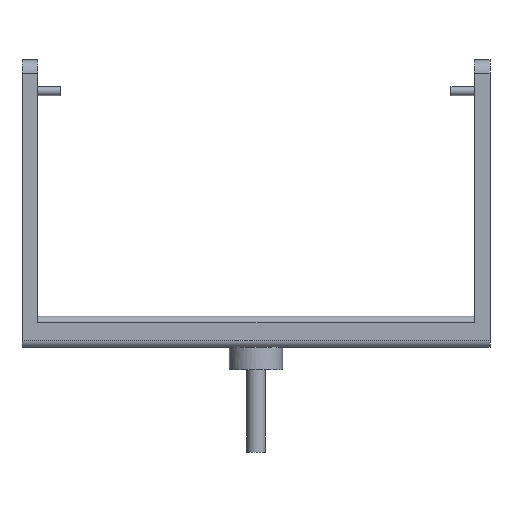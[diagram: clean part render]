
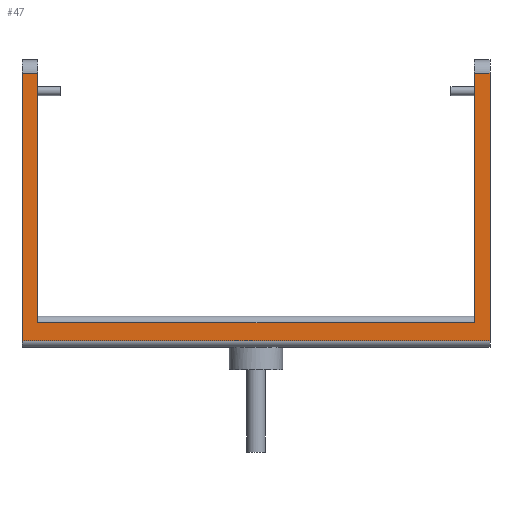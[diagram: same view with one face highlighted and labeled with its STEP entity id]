
A CAD part, left-side view. The second image highlights one B-rep face of the part: STEP entity #47.
In plain terms, the highlighted planar face has unit normal (-1, 0, 0).
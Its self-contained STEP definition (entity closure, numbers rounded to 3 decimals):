
#47 = ADVANCED_FACE('',(#48),#62,.F.);
#48 = FACE_BOUND('',#49,.F.);
#49 = EDGE_LOOP('',(#50,#85,#113,#141,#169,#197,#225,#253));
#50 = ORIENTED_EDGE('',*,*,#51,.F.);
#51 = EDGE_CURVE('',#52,#54,#56,.T.);
#52 = VERTEX_POINT('',#53);
#53 = CARTESIAN_POINT('',(924.,-210.,326.));
#54 = VERTEX_POINT('',#55);
#55 = CARTESIAN_POINT('',(924.,-210.,566.));
#56 = SURFACE_CURVE('',#57,(#61,#73),.PCURVE_S1.);
#57 = LINE('',#58,#59);
#58 = CARTESIAN_POINT('',(924.,-210.,326.));
#59 = VECTOR('',#60,1.);
#60 = DIRECTION('',(0.,0.,1.));
#61 = PCURVE('',#62,#67);
#62 = PLANE('',#63);
#63 = AXIS2_PLACEMENT_3D('',#64,#65,#66);
#64 = CARTESIAN_POINT('',(924.,-210.,320.));
#65 = DIRECTION('',(1.,0.,0.));
#66 = DIRECTION('',(0.,0.,1.));
#67 = DEFINITIONAL_REPRESENTATION('',(#68),#72);
#68 = LINE('',#69,#70);
#69 = CARTESIAN_POINT('',(6.,0.));
#70 = VECTOR('',#71,1.);
#71 = DIRECTION('',(1.,0.));
#72 = ( GEOMETRIC_REPRESENTATION_CONTEXT(2) 
PARAMETRIC_REPRESENTATION_CONTEXT() REPRESENTATION_CONTEXT('2D SPACE',''
  ) );
#73 = PCURVE('',#74,#79);
#74 = PLANE('',#75);
#75 = AXIS2_PLACEMENT_3D('',#76,#77,#78);
#76 = CARTESIAN_POINT('',(924.,-210.,320.));
#77 = DIRECTION('',(0.,1.,0.));
#78 = DIRECTION('',(0.,0.,1.));
#79 = DEFINITIONAL_REPRESENTATION('',(#80),#84);
#80 = LINE('',#81,#82);
#81 = CARTESIAN_POINT('',(6.,0.));
#82 = VECTOR('',#83,1.);
#83 = DIRECTION('',(1.,0.));
#84 = ( GEOMETRIC_REPRESENTATION_CONTEXT(2) 
PARAMETRIC_REPRESENTATION_CONTEXT() REPRESENTATION_CONTEXT('2D SPACE',''
  ) );
#85 = ORIENTED_EDGE('',*,*,#86,.T.);
#86 = EDGE_CURVE('',#52,#87,#89,.T.);
#87 = VERTEX_POINT('',#88);
#88 = CARTESIAN_POINT('',(924.,210.,326.));
#89 = SURFACE_CURVE('',#90,(#94,#101),.PCURVE_S1.);
#90 = LINE('',#91,#92);
#91 = CARTESIAN_POINT('',(924.,-210.,326.));
#92 = VECTOR('',#93,1.);
#93 = DIRECTION('',(0.,1.,0.));
#94 = PCURVE('',#62,#95);
#95 = DEFINITIONAL_REPRESENTATION('',(#96),#100);
#96 = LINE('',#97,#98);
#97 = CARTESIAN_POINT('',(6.,0.));
#98 = VECTOR('',#99,1.);
#99 = DIRECTION('',(0.,-1.));
#100 = ( GEOMETRIC_REPRESENTATION_CONTEXT(2) 
PARAMETRIC_REPRESENTATION_CONTEXT() REPRESENTATION_CONTEXT('2D SPACE',''
  ) );
#101 = PCURVE('',#102,#107);
#102 = CYLINDRICAL_SURFACE('',#103,6.);
#103 = AXIS2_PLACEMENT_3D('',#104,#105,#106);
#104 = CARTESIAN_POINT('',(930.,-210.,326.));
#105 = DIRECTION('',(0.,1.,0.));
#106 = DIRECTION('',(-1.,0.,0.));
#107 = DEFINITIONAL_REPRESENTATION('',(#108),#112);
#108 = LINE('',#109,#110);
#109 = CARTESIAN_POINT('',(-0.,0.));
#110 = VECTOR('',#111,1.);
#111 = DIRECTION('',(-0.,1.));
#112 = ( GEOMETRIC_REPRESENTATION_CONTEXT(2) 
PARAMETRIC_REPRESENTATION_CONTEXT() REPRESENTATION_CONTEXT('2D SPACE',''
  ) );
#113 = ORIENTED_EDGE('',*,*,#114,.F.);
#114 = EDGE_CURVE('',#115,#87,#117,.T.);
#115 = VERTEX_POINT('',#116);
#116 = CARTESIAN_POINT('',(924.,210.,566.));
#117 = SURFACE_CURVE('',#118,(#122,#129),.PCURVE_S1.);
#118 = LINE('',#119,#120);
#119 = CARTESIAN_POINT('',(924.,210.,566.));
#120 = VECTOR('',#121,1.);
#121 = DIRECTION('',(0.,0.,-1.));
#122 = PCURVE('',#62,#123);
#123 = DEFINITIONAL_REPRESENTATION('',(#124),#128);
#124 = LINE('',#125,#126);
#125 = CARTESIAN_POINT('',(246.,-420.));
#126 = VECTOR('',#127,1.);
#127 = DIRECTION('',(-1.,0.));
#128 = ( GEOMETRIC_REPRESENTATION_CONTEXT(2) 
PARAMETRIC_REPRESENTATION_CONTEXT() REPRESENTATION_CONTEXT('2D SPACE',''
  ) );
#129 = PCURVE('',#130,#135);
#130 = PLANE('',#131);
#131 = AXIS2_PLACEMENT_3D('',#132,#133,#134);
#132 = CARTESIAN_POINT('',(924.,210.,320.));
#133 = DIRECTION('',(0.,1.,0.));
#134 = DIRECTION('',(0.,0.,1.));
#135 = DEFINITIONAL_REPRESENTATION('',(#136),#140);
#136 = LINE('',#137,#138);
#137 = CARTESIAN_POINT('',(246.,0.));
#138 = VECTOR('',#139,1.);
#139 = DIRECTION('',(-1.,0.));
#140 = ( GEOMETRIC_REPRESENTATION_CONTEXT(2) 
PARAMETRIC_REPRESENTATION_CONTEXT() REPRESENTATION_CONTEXT('2D SPACE',''
  ) );
#141 = ORIENTED_EDGE('',*,*,#142,.F.);
#142 = EDGE_CURVE('',#143,#115,#145,.T.);
#143 = VERTEX_POINT('',#144);
#144 = CARTESIAN_POINT('',(924.,196.,566.));
#145 = SURFACE_CURVE('',#146,(#150,#157),.PCURVE_S1.);
#146 = LINE('',#147,#148);
#147 = CARTESIAN_POINT('',(924.,196.,566.));
#148 = VECTOR('',#149,1.);
#149 = DIRECTION('',(0.,1.,0.));
#150 = PCURVE('',#62,#151);
#151 = DEFINITIONAL_REPRESENTATION('',(#152),#156);
#152 = LINE('',#153,#154);
#153 = CARTESIAN_POINT('',(246.,-406.));
#154 = VECTOR('',#155,1.);
#155 = DIRECTION('',(0.,-1.));
#156 = ( GEOMETRIC_REPRESENTATION_CONTEXT(2) 
PARAMETRIC_REPRESENTATION_CONTEXT() REPRESENTATION_CONTEXT('2D SPACE',''
  ) );
#157 = PCURVE('',#158,#163);
#158 = CYLINDRICAL_SURFACE('',#159,12.);
#159 = AXIS2_PLACEMENT_3D('',#160,#161,#162);
#160 = CARTESIAN_POINT('',(936.,196.,566.));
#161 = DIRECTION('',(0.,1.,0.));
#162 = DIRECTION('',(-1.,0.,0.));
#163 = DEFINITIONAL_REPRESENTATION('',(#164),#168);
#164 = LINE('',#165,#166);
#165 = CARTESIAN_POINT('',(0.,0.));
#166 = VECTOR('',#167,1.);
#167 = DIRECTION('',(0.,1.));
#168 = ( GEOMETRIC_REPRESENTATION_CONTEXT(2) 
PARAMETRIC_REPRESENTATION_CONTEXT() REPRESENTATION_CONTEXT('2D SPACE',''
  ) );
#169 = ORIENTED_EDGE('',*,*,#170,.F.);
#170 = EDGE_CURVE('',#171,#143,#173,.T.);
#171 = VERTEX_POINT('',#172);
#172 = CARTESIAN_POINT('',(924.,196.,342.));
#173 = SURFACE_CURVE('',#174,(#178,#185),.PCURVE_S1.);
#174 = LINE('',#175,#176);
#175 = CARTESIAN_POINT('',(924.,196.,320.));
#176 = VECTOR('',#177,1.);
#177 = DIRECTION('',(0.,0.,1.));
#178 = PCURVE('',#62,#179);
#179 = DEFINITIONAL_REPRESENTATION('',(#180),#184);
#180 = LINE('',#181,#182);
#181 = CARTESIAN_POINT('',(0.,-406.));
#182 = VECTOR('',#183,1.);
#183 = DIRECTION('',(1.,0.));
#184 = ( GEOMETRIC_REPRESENTATION_CONTEXT(2) 
PARAMETRIC_REPRESENTATION_CONTEXT() REPRESENTATION_CONTEXT('2D SPACE',''
  ) );
#185 = PCURVE('',#186,#191);
#186 = PLANE('',#187);
#187 = AXIS2_PLACEMENT_3D('',#188,#189,#190);
#188 = CARTESIAN_POINT('',(924.,196.,320.));
#189 = DIRECTION('',(0.,1.,0.));
#190 = DIRECTION('',(0.,0.,1.));
#191 = DEFINITIONAL_REPRESENTATION('',(#192),#196);
#192 = LINE('',#193,#194);
#193 = CARTESIAN_POINT('',(0.,0.));
#194 = VECTOR('',#195,1.);
#195 = DIRECTION('',(1.,0.));
#196 = ( GEOMETRIC_REPRESENTATION_CONTEXT(2) 
PARAMETRIC_REPRESENTATION_CONTEXT() REPRESENTATION_CONTEXT('2D SPACE',''
  ) );
#197 = ORIENTED_EDGE('',*,*,#198,.F.);
#198 = EDGE_CURVE('',#199,#171,#201,.T.);
#199 = VERTEX_POINT('',#200);
#200 = CARTESIAN_POINT('',(924.,-196.,342.));
#201 = SURFACE_CURVE('',#202,(#206,#213),.PCURVE_S1.);
#202 = LINE('',#203,#204);
#203 = CARTESIAN_POINT('',(924.,-210.,342.));
#204 = VECTOR('',#205,1.);
#205 = DIRECTION('',(0.,1.,0.));
#206 = PCURVE('',#62,#207);
#207 = DEFINITIONAL_REPRESENTATION('',(#208),#212);
#208 = LINE('',#209,#210);
#209 = CARTESIAN_POINT('',(22.,0.));
#210 = VECTOR('',#211,1.);
#211 = DIRECTION('',(0.,-1.));
#212 = ( GEOMETRIC_REPRESENTATION_CONTEXT(2) 
PARAMETRIC_REPRESENTATION_CONTEXT() REPRESENTATION_CONTEXT('2D SPACE',''
  ) );
#213 = PCURVE('',#214,#219);
#214 = CYLINDRICAL_SURFACE('',#215,6.);
#215 = AXIS2_PLACEMENT_3D('',#216,#217,#218);
#216 = CARTESIAN_POINT('',(930.,-210.,342.));
#217 = DIRECTION('',(0.,1.,0.));
#218 = DIRECTION('',(-1.,0.,0.));
#219 = DEFINITIONAL_REPRESENTATION('',(#220),#224);
#220 = LINE('',#221,#222);
#221 = CARTESIAN_POINT('',(0.,0.));
#222 = VECTOR('',#223,1.);
#223 = DIRECTION('',(0.,1.));
#224 = ( GEOMETRIC_REPRESENTATION_CONTEXT(2) 
PARAMETRIC_REPRESENTATION_CONTEXT() REPRESENTATION_CONTEXT('2D SPACE',''
  ) );
#225 = ORIENTED_EDGE('',*,*,#226,.T.);
#226 = EDGE_CURVE('',#199,#227,#229,.T.);
#227 = VERTEX_POINT('',#228);
#228 = CARTESIAN_POINT('',(924.,-196.,566.));
#229 = SURFACE_CURVE('',#230,(#234,#241),.PCURVE_S1.);
#230 = LINE('',#231,#232);
#231 = CARTESIAN_POINT('',(924.,-196.,320.));
#232 = VECTOR('',#233,1.);
#233 = DIRECTION('',(0.,0.,1.));
#234 = PCURVE('',#62,#235);
#235 = DEFINITIONAL_REPRESENTATION('',(#236),#240);
#236 = LINE('',#237,#238);
#237 = CARTESIAN_POINT('',(0.,-14.));
#238 = VECTOR('',#239,1.);
#239 = DIRECTION('',(1.,0.));
#240 = ( GEOMETRIC_REPRESENTATION_CONTEXT(2) 
PARAMETRIC_REPRESENTATION_CONTEXT() REPRESENTATION_CONTEXT('2D SPACE',''
  ) );
#241 = PCURVE('',#242,#247);
#242 = PLANE('',#243);
#243 = AXIS2_PLACEMENT_3D('',#244,#245,#246);
#244 = CARTESIAN_POINT('',(924.,-196.,320.));
#245 = DIRECTION('',(0.,1.,0.));
#246 = DIRECTION('',(0.,0.,1.));
#247 = DEFINITIONAL_REPRESENTATION('',(#248),#252);
#248 = LINE('',#249,#250);
#249 = CARTESIAN_POINT('',(0.,0.));
#250 = VECTOR('',#251,1.);
#251 = DIRECTION('',(1.,0.));
#252 = ( GEOMETRIC_REPRESENTATION_CONTEXT(2) 
PARAMETRIC_REPRESENTATION_CONTEXT() REPRESENTATION_CONTEXT('2D SPACE',''
  ) );
#253 = ORIENTED_EDGE('',*,*,#254,.F.);
#254 = EDGE_CURVE('',#54,#227,#255,.T.);
#255 = SURFACE_CURVE('',#256,(#260,#267),.PCURVE_S1.);
#256 = LINE('',#257,#258);
#257 = CARTESIAN_POINT('',(924.,-210.,566.));
#258 = VECTOR('',#259,1.);
#259 = DIRECTION('',(0.,1.,0.));
#260 = PCURVE('',#62,#261);
#261 = DEFINITIONAL_REPRESENTATION('',(#262),#266);
#262 = LINE('',#263,#264);
#263 = CARTESIAN_POINT('',(246.,0.));
#264 = VECTOR('',#265,1.);
#265 = DIRECTION('',(0.,-1.));
#266 = ( GEOMETRIC_REPRESENTATION_CONTEXT(2) 
PARAMETRIC_REPRESENTATION_CONTEXT() REPRESENTATION_CONTEXT('2D SPACE',''
  ) );
#267 = PCURVE('',#268,#273);
#268 = CYLINDRICAL_SURFACE('',#269,12.);
#269 = AXIS2_PLACEMENT_3D('',#270,#271,#272);
#270 = CARTESIAN_POINT('',(936.,-210.,566.));
#271 = DIRECTION('',(0.,1.,0.));
#272 = DIRECTION('',(-1.,0.,0.));
#273 = DEFINITIONAL_REPRESENTATION('',(#274),#278);
#274 = LINE('',#275,#276);
#275 = CARTESIAN_POINT('',(0.,0.));
#276 = VECTOR('',#277,1.);
#277 = DIRECTION('',(0.,1.));
#278 = ( GEOMETRIC_REPRESENTATION_CONTEXT(2) 
PARAMETRIC_REPRESENTATION_CONTEXT() REPRESENTATION_CONTEXT('2D SPACE',''
  ) );
